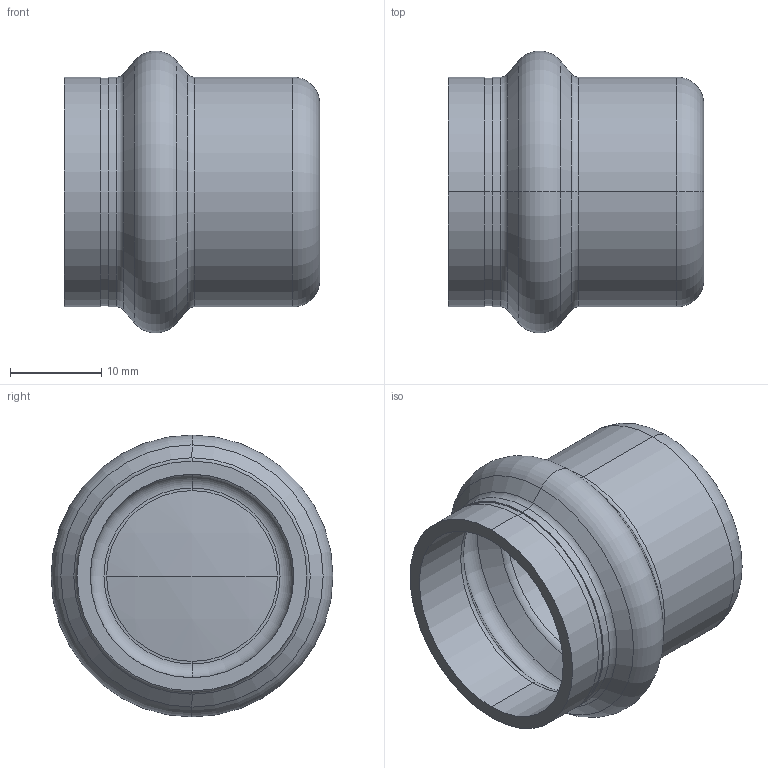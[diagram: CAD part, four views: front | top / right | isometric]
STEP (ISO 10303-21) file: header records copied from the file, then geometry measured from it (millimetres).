
FILE_DESCRIPTION (( 'STEP AP203' ), '1' );
FILE_NAME ('SP5301 22.STEP', '2017-04-24T09:27:11', ( '' ), ( '' ), 'SwSTEP 2.0', 'SolidWorks 2016', '' );
FILE_SCHEMA (( 'CONFIG_CONTROL_DESIGN' ));
Length unit declared in the file: millimetre
Products named in the file (1): SP5301 22
Bounding box: 28 x 30.9 x 30.9 mm (x, y, z)
Volume: 3883.4 mm3; surface area: 5484.6 mm2
Topology: 1 solids, 1 shells, 50 faces, 102 edges, 58 vertices
Faces by surface type: torus 20, cylinder 14, cone 8, sphere 4, plane 4
Entity records: 1403 total; most frequent: DIRECTION 284, CARTESIAN_POINT 211, ORIENTED_EDGE 204, AXIS2_PLACEMENT_3D 131, EDGE_CURVE 102, CIRCLE 80, VERTEX_POINT 58, EDGE_LOOP 54
